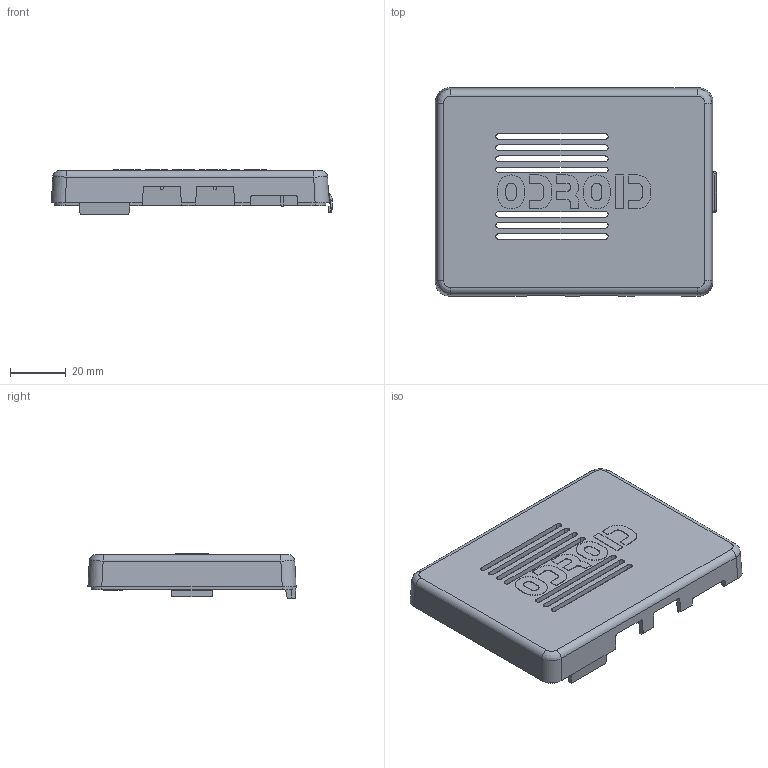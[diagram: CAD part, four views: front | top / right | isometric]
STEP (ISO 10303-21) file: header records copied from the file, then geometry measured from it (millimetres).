
FILE_DESCRIPTION (( 'STEP AP214' ), '1' );
FILE_NAME ('top_2.STEP', '2015-04-29T02:25:05', ( '' ), ( '' ), 'SwSTEP 2.0', 'SolidWorks 2013', '' );
FILE_SCHEMA (( 'AUTOMOTIVE_DESIGN' ));
Length unit declared in the file: millimetre
Products named in the file (1): top_2
Bounding box: 101.33 x 75 x 15.9 mm (x, y, z)
Volume: 18905 mm3; surface area: 22387.5 mm2
Topology: 1 solids, 1 shells, 270 faces, 732 edges, 476 vertices
Faces by surface type: plane 146, cylinder 58, bspline 58, torus 8
Entity records: 9665 total; most frequent: CARTESIAN_POINT 2893, ORIENTED_EDGE 1460, DIRECTION 1102, EDGE_CURVE 730, VECTOR 484, LINE 484, VERTEX_POINT 476, AXIS2_PLACEMENT_3D 309
